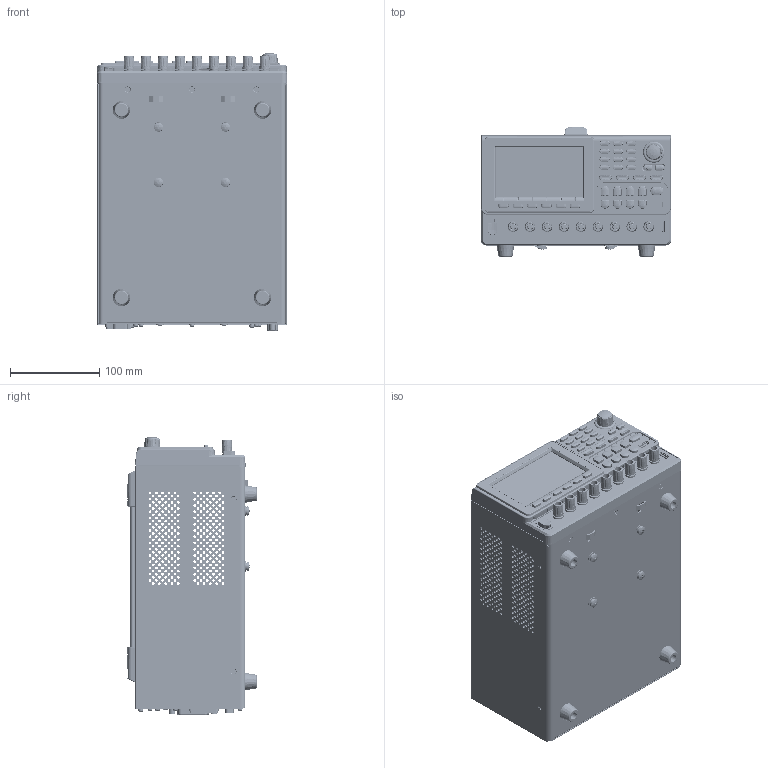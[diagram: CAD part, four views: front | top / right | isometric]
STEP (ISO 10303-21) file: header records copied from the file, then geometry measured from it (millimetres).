
FILE_DESCRIPTION((''),'2;1');
FILE_NAME('GPP-XXXX_ASM_ASM_ASM','2019-10-12T15:30:59',('user'),(''),'CREO PARAMETRIC BY PTC INC, 2019010','CREO PARAMETRIC BY PTC INC, 2019010','');
FILE_SCHEMA(('CONFIG_CONTROL_DESIGN'));
Products named in the file (74): GPP-XXXX_ASM_SKEL_16; GPP-XXXX_FRONT_ASM_SKEL_156; 63FP-AG114401_460; GPP-XXXX_FRONT_FRAME-B_ASM_9_ASM; 57RB-40G13601_82; 57RB-40G13701_296; USB-V_10_1; ENCODE_SW-R126EC-D1-25_3; GPP-XXXX_KEYBOARD-PCB_ASM_135_ASM; 5005-180G020_16; GPP-XXXX_MODEL_NP-B_29; GPP-XXXX_BINDING_POST_NP-B_73; GPP-XXXX_CH_NP-B_30; 63LK-AG101301_50; 51PP-43230401_12; GPP-XXXX_FRONT_ASM-B_ASM_233_ASM; USB-V_3A_20; GPP-XXXX_CH3_USB_ASM_22_ASM; GPP-XXXX_FP_ASM_ASM_176_ASM; BODY_11; SHIFT_13; KNOB_11; INSERT_5; KNOB_ASM_6_ASM; BINDING_ASM_13_ASM; GPP-XXXX_OUTPUT-PCB_ASM_56_ASM; GPP-XXXX_FRONT_ASM_ASM_491_ASM; GPP-XXXX_LO_ASM_SKEL_22; BOX-HEADER_3012_2; USB_8; RS232_MALE_3_1; RS232_MALE_3_2; RS232_MALE_3_3; RS232_MALE_3_ASM; GPP-XXXX_MAIN-PCB_ASM_64_ASM; 57FC-10B0100_GL-4L-B_2; GPP-XXXX_LO-B_119; GPP-XXXX_LO_TUDIAN_2; BSO-M3-10_7; FH-M4-20_5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
Assembly tree (126 placements, depth 7):
  GPP-XXXX_ASM_ASM_ASM
    GPP-XXXX_ASM_ASM_497_ASM
      GPP-XXXX_ASM_SKEL_16
      GPP-XXXX_FRONT_ASM_ASM_491_ASM
        GPP-XXXX_FRONT_ASM_SKEL_156
        GPP-XXXX_FRONT_ASM-B_ASM_233_ASM
          GPP-XXXX_FRONT_FRAME-B_ASM_9_ASM
            63FP-AG114401_460
          57RB-40G13601_82
          57RB-40G13701_296
          GPP-XXXX_KEYBOARD-PCB_ASM_135_ASM
            USB-V_10_1
            ENCODE_SW-R126EC-D1-25_3
          5005-180G020_16
          GPP-XXXX_MODEL_NP-B_29
          GPP-XXXX_BINDING_POST_NP-B_73
          GPP-XXXX_CH_NP-B_30
          63LK-AG101301_50
          51PP-43230401_12
        GPP-XXXX_FP_ASM_ASM_176_ASM
          GPP-XXXX_CH3_USB_ASM_22_ASM
            USB-V_3A_20
        GPP-XXXX_OUTPUT-PCB_ASM_56_ASM
          BINDING_ASM_13_ASM  x9
            BODY_11
            SHIFT_13
            KNOB_ASM_6_ASM
              KNOB_11
              INSERT_5
      GPP-XXXX_LO_ASM_ASM_94_ASM
        GPP-XXXX_LO_ASM_SKEL_22
        GPP-XXXX_MAIN-PCB_ASM_64_ASM
          BOX-HEADER_3012_2
          USB_8
          RS232_MALE_3_ASM
            RS232_MALE_3_1
            RS232_MALE_3_2
            RS232_MALE_3_3
        57FC-10B0100_GL-4L-B_2  x4
        62PP-323LO101_ASM_71_ASM
          GPP-XXXX_LO-B_119
          GPP-XXXX_LO_TUDIAN_2  x4
          BSO-M3-10_7  x14
          FH-M4-20_5
        BMS-W-5X10_4  x4
        FMS-3X6_2  x3
      GPP-XXXX_UP_ASM_ASM_49_ASM
        GPP-XXXX_UP_ASM_SKEL_7
        TEXIO_PW-A_HANDLE-BELT_ASM_8_ASM
          551G-22220901_4
          63CH-AG100301_3_ASM  x2
            63CH-AG100301_3_1
            63CH-AG100301_3_2
            63CH-AG100301_3_3
            63CH-AG100301_3_4
            63CH-AG100301_3_5
        62PP-323UP101_ASM_16_ASM
          62PP-323UP101_84
        FMS-3X6_2  x6
        PMS-W-3X6_1  x2
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Bounding box: 213 x 144.77 x 311.2 mm (x, y, z)
Volume: 463505.3 mm3; surface area: 720298.5 mm2
Topology: 128 solids, 128 shells, 10760 faces, 28684 edges, 18630 vertices
Faces by surface type: plane 4806, cylinder 3534, cone 1542, bspline 455, torus 268, sphere 101, extrusion 54
Entity records: 282855 total; most frequent: CARTESIAN_POINT 70062, DIRECTION 44452, ORIENTED_EDGE 43898, EDGE_CURVE 21949, AXIS2_PLACEMENT_3D 16144, VERTEX_POINT 14283, VECTOR 12164, LINE 12158
